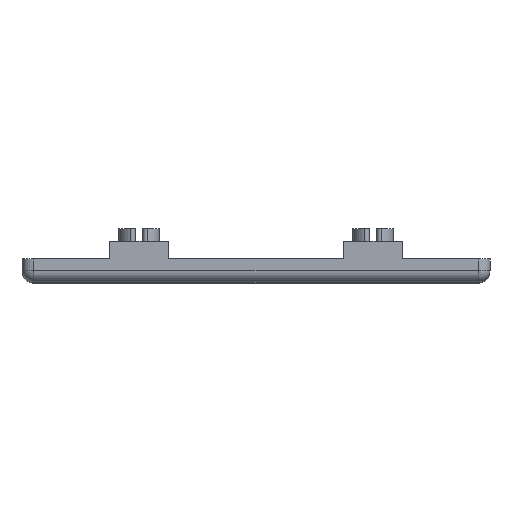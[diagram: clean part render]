
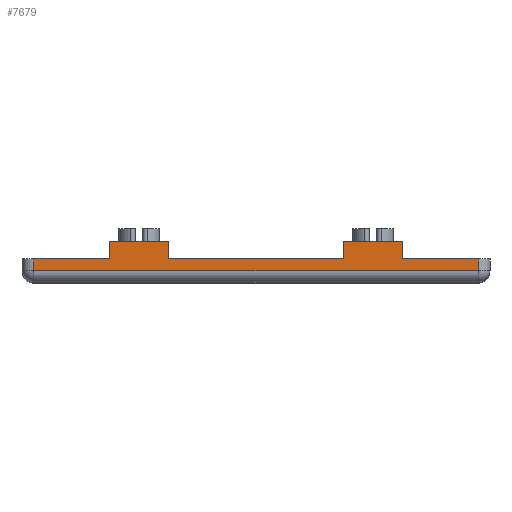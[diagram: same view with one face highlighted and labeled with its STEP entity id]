
A CAD part, top view. The second image highlights one B-rep face of the part: STEP entity #7679.
In plain terms, the highlighted planar face has unit normal (0, 0, 1).
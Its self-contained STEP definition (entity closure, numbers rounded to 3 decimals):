
#150 = VERTEX_POINT ( 'NONE', #3609 ) ;
#318 = CARTESIAN_POINT ( 'NONE',  ( -38., 4., 40. ) ) ;
#636 = VECTOR ( 'NONE', #7517, 1000. ) ;
#793 = VERTEX_POINT ( 'NONE', #4833 ) ;
#910 = FACE_OUTER_BOUND ( 'NONE', #4534, .T. ) ;
#913 = CARTESIAN_POINT ( 'NONE',  ( 15., 7., 40. ) ) ;
#1008 = CARTESIAN_POINT ( 'NONE',  ( -25., 7., 40. ) ) ;
#1020 = VERTEX_POINT ( 'NONE', #2522 ) ;
#1135 = VERTEX_POINT ( 'NONE', #4907 ) ;
#1269 = VECTOR ( 'NONE', #8825, 1000. ) ;
#1371 = VERTEX_POINT ( 'NONE', #913 ) ;
#1573 = VECTOR ( 'NONE', #7120, 1000. ) ;
#1619 = EDGE_CURVE ( 'NONE', #793, #6434, #6047, .T. ) ;
#1634 = DIRECTION ( 'NONE',  ( 1., 0., 0. ) ) ;
#1684 = LINE ( 'NONE', #3192, #9290 ) ;
#1693 = CARTESIAN_POINT ( 'NONE',  ( 25., 7., 40. ) ) ;
#1778 = CARTESIAN_POINT ( 'NONE',  ( -38., 4., 40. ) ) ;
#1791 = LINE ( 'NONE', #1693, #8932 ) ;
#1870 = DIRECTION ( 'NONE',  ( 1., 0., 0. ) ) ;
#2024 = EDGE_CURVE ( 'NONE', #3731, #5881, #8955, .T. ) ;
#2112 = ORIENTED_EDGE ( 'NONE', *, *, #3663, .F. ) ;
#2359 = ORIENTED_EDGE ( 'NONE', *, *, #8847, .F. ) ;
#2522 = CARTESIAN_POINT ( 'NONE',  ( 25., 7., 40. ) ) ;
#2679 = ORIENTED_EDGE ( 'NONE', *, *, #6494, .T. ) ;
#2754 = CARTESIAN_POINT ( 'NONE',  ( -25., 7., 40. ) ) ;
#2964 = CARTESIAN_POINT ( 'NONE',  ( 25., 7., 40. ) ) ;
#3046 = VERTEX_POINT ( 'NONE', #6619 ) ;
#3111 = CARTESIAN_POINT ( 'NONE',  ( 15., 7., 40. ) ) ;
#3176 = VECTOR ( 'NONE', #5231, 1000. ) ;
#3192 = CARTESIAN_POINT ( 'NONE',  ( -38., 4., 40. ) ) ;
#3311 = LINE ( 'NONE', #2754, #1269 ) ;
#3346 = CARTESIAN_POINT ( 'NONE',  ( 38., 4., 40. ) ) ;
#3394 = PLANE ( 'NONE',  #8770 ) ;
#3395 = ORIENTED_EDGE ( 'NONE', *, *, #2024, .F. ) ;
#3557 = CARTESIAN_POINT ( 'NONE',  ( 38., 2., 40. ) ) ;
#3568 = CARTESIAN_POINT ( 'NONE',  ( -38., 4., 40. ) ) ;
#3609 = CARTESIAN_POINT ( 'NONE',  ( -25., 4., 40. ) ) ;
#3625 = LINE ( 'NONE', #1778, #1573 ) ;
#3637 = LINE ( 'NONE', #4468, #636 ) ;
#3663 = EDGE_CURVE ( 'NONE', #9679, #7431, #3803, .T. ) ;
#3701 = EDGE_CURVE ( 'NONE', #1371, #1020, #1791, .T. ) ;
#3731 = VERTEX_POINT ( 'NONE', #3346 ) ;
#3782 = ORIENTED_EDGE ( 'NONE', *, *, #6358, .T. ) ;
#3803 = LINE ( 'NONE', #1008, #7869 ) ;
#4046 = CARTESIAN_POINT ( 'NONE',  ( 38., 4., 40. ) ) ;
#4157 = VECTOR ( 'NONE', #8395, 1000. ) ;
#4162 = DIRECTION ( 'NONE',  ( -1., 0., 0. ) ) ;
#4178 = ORIENTED_EDGE ( 'NONE', *, *, #7575, .T. ) ;
#4334 = LINE ( 'NONE', #6427, #6344 ) ;
#4468 = CARTESIAN_POINT ( 'NONE',  ( -15., 7., 40. ) ) ;
#4490 = CARTESIAN_POINT ( 'NONE',  ( 25., 4., 40. ) ) ;
#4534 = EDGE_LOOP ( 'NONE', ( #7859, #2679, #3395, #6295, #5769, #5800, #4178, #7907, #7338, #2112, #3782, #2359 ) ) ;
#4561 = CARTESIAN_POINT ( 'NONE',  ( -25., 7., 40. ) ) ;
#4607 = LINE ( 'NONE', #3111, #4157 ) ;
#4697 = LINE ( 'NONE', #2964, #8249 ) ;
#4833 = CARTESIAN_POINT ( 'NONE',  ( -38., 4., 40. ) ) ;
#4907 = CARTESIAN_POINT ( 'NONE',  ( -15., 4., 40. ) ) ;
#4966 = EDGE_CURVE ( 'NONE', #1135, #3046, #4334, .T. ) ;
#5101 = DIRECTION ( 'NONE',  ( 0., -1., 0. ) ) ;
#5162 = VECTOR ( 'NONE', #9391, 1000. ) ;
#5231 = DIRECTION ( 'NONE',  ( 1., 0., 0. ) ) ;
#5601 = DIRECTION ( 'NONE',  ( 1., 0., 0. ) ) ;
#5769 = ORIENTED_EDGE ( 'NONE', *, *, #8670, .F. ) ;
#5800 = ORIENTED_EDGE ( 'NONE', *, *, #3701, .F. ) ;
#5832 = VECTOR ( 'NONE', #5101, 1000. ) ;
#5863 = CARTESIAN_POINT ( 'NONE',  ( -38., 2., 40. ) ) ;
#5881 = VERTEX_POINT ( 'NONE', #3557 ) ;
#6047 = LINE ( 'NONE', #3568, #5832 ) ;
#6295 = ORIENTED_EDGE ( 'NONE', *, *, #9129, .F. ) ;
#6319 = DIRECTION ( 'NONE',  ( 1., 0., 0. ) ) ;
#6344 = VECTOR ( 'NONE', #1870, 1000. ) ;
#6358 = EDGE_CURVE ( 'NONE', #9679, #150, #3311, .T. ) ;
#6427 = CARTESIAN_POINT ( 'NONE',  ( -38., 4., 40. ) ) ;
#6434 = VERTEX_POINT ( 'NONE', #5863 ) ;
#6494 = EDGE_CURVE ( 'NONE', #6434, #5881, #8997, .T. ) ;
#6595 = VERTEX_POINT ( 'NONE', #4490 ) ;
#6619 = CARTESIAN_POINT ( 'NONE',  ( 15., 4., 40. ) ) ;
#7120 = DIRECTION ( 'NONE',  ( 1., 0., 0. ) ) ;
#7338 = ORIENTED_EDGE ( 'NONE', *, *, #8619, .F. ) ;
#7431 = VERTEX_POINT ( 'NONE', #9835 ) ;
#7517 = DIRECTION ( 'NONE',  ( 0., -1., 0. ) ) ;
#7538 = DIRECTION ( 'NONE',  ( 0., -1., 0. ) ) ;
#7575 = EDGE_CURVE ( 'NONE', #1371, #3046, #4607, .T. ) ;
#7679 = ADVANCED_FACE ( 'NONE', ( #910 ), #3394, .F. ) ;
#7859 = ORIENTED_EDGE ( 'NONE', *, *, #1619, .T. ) ;
#7869 = VECTOR ( 'NONE', #6319, 1000. ) ;
#7907 = ORIENTED_EDGE ( 'NONE', *, *, #4966, .F. ) ;
#8249 = VECTOR ( 'NONE', #7538, 1000. ) ;
#8395 = DIRECTION ( 'NONE',  ( 0., -1., 0. ) ) ;
#8619 = EDGE_CURVE ( 'NONE', #7431, #1135, #3637, .T. ) ;
#8670 = EDGE_CURVE ( 'NONE', #1020, #6595, #4697, .T. ) ;
#8690 = DIRECTION ( 'NONE',  ( 0., 0., -1. ) ) ;
#8770 = AXIS2_PLACEMENT_3D ( 'NONE', #318, #8690, #4162 ) ;
#8825 = DIRECTION ( 'NONE',  ( 0., -1., 0. ) ) ;
#8847 = EDGE_CURVE ( 'NONE', #793, #150, #3625, .T. ) ;
#8932 = VECTOR ( 'NONE', #5601, 1000. ) ;
#8955 = LINE ( 'NONE', #4046, #5162 ) ;
#8997 = LINE ( 'NONE', #9768, #3176 ) ;
#9129 = EDGE_CURVE ( 'NONE', #6595, #3731, #1684, .T. ) ;
#9290 = VECTOR ( 'NONE', #1634, 1000. ) ;
#9391 = DIRECTION ( 'NONE',  ( 0., -1., 0. ) ) ;
#9679 = VERTEX_POINT ( 'NONE', #4561 ) ;
#9768 = CARTESIAN_POINT ( 'NONE',  ( -38., 2., 40. ) ) ;
#9835 = CARTESIAN_POINT ( 'NONE',  ( -15., 7., 40. ) ) ;
